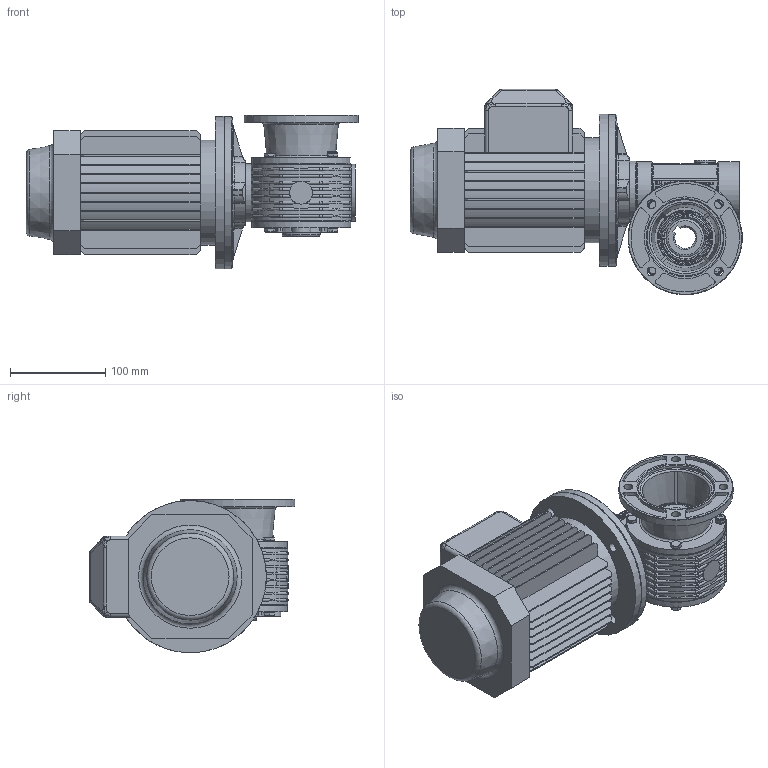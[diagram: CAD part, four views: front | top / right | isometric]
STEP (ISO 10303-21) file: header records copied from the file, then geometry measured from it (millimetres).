
FILE_DESCRIPTION((''),'2;1');
FILE_NAME('Y:\Archivi Inventor\Prog_01\GRAND_10\Figurini\mrv10 VECCHIO\MRV10 PAM71B5 F1.stp','2014-01-14T17:41:47',('tech3'),(''),'Autodesk Inventor 2013','Autodesk Inventor 2013','');
FILE_SCHEMA(('AUTOMOTIVE_DESIGN { 1 0 10303 214 1 1 1 1 }'));
Length unit declared in the file: millimetre
Products named in the file (17): MRV10 PAM71B5 F1; V10_PRIMARIO; carcassa mrv10 fig; corona MRV10-f22 fig; flangia riduttore Mrv10 fig; coperchio laterale mrv10 fig; RCA_40x7; 40_52_8; Tappo 3_8 GAS_esagn_incsst; Guarnizione 3_8 GAS; DIN EN ISO 4762 M6 x 20; DIN EN 24017 M6 x 16; 0101029; 0101028; 0101006; DIN EN ISO 4762 M6 x 16; motori B5 71
Assembly tree (28 placements, depth 3):
  MRV10 PAM71B5 F1
    V10_PRIMARIO
      carcassa mrv10 fig
      corona MRV10-f22 fig
      flangia riduttore Mrv10 fig
      coperchio laterale mrv10 fig
      RCA_40x7
      40_52_8  x2
      Tappo 3_8 GAS_esagn_incsst
      Guarnizione 3_8 GAS
      DIN EN ISO 4762 M6 x 20
      DIN EN 24017 M6 x 16  x8
      0101029  x2
      0101028
    0101006
    DIN EN ISO 4762 M6 x 16  x4
    motori B5 71
Bounding box: 348.72 x 215.77 x 161.35 mm (x, y, z)
Volume: 3639415.4 mm3; surface area: 531515.3 mm2
Topology: 27 solids, 31 shells, 1918 faces, 4847 edges, 3103 vertices
Faces by surface type: plane 1072, cylinder 392, bspline 210, cone 125, torus 111, sphere 8
Full cylindrical faces by diameter (mm): 2 x2, 4.917 x12, 6 x17, 6.5 x21, 8 x1, 8.88 x8, 9.25 x4, 10 x9, 11 x4, 14 x1, 14.95 x1, 16.3 x1, 16.5 x1, 22 x2, 24 x1, 35 x1, 35.2 x1, 39.4 x2, 40 x11, 42.5 x1, 42.881 x2, 47.232 x2, 52 x4, 60 x3, 61 x1, 80 x2, 81 x1, 82 x6, 103.5 x2, 104 x2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
Entity records: 56928 total; most frequent: CARTESIAN_POINT 16466, ORIENTED_EDGE 8372, DIRECTION 7678, EDGE_CURVE 4186, VERTEX_POINT 2792, AXIS2_PLACEMENT_3D 2649, VECTOR 2380, LINE 2380
